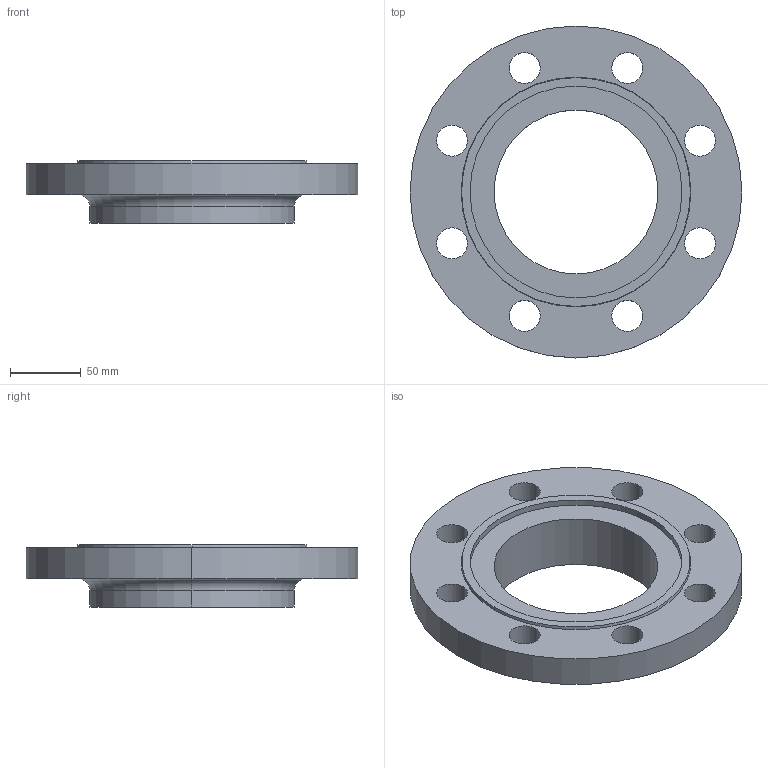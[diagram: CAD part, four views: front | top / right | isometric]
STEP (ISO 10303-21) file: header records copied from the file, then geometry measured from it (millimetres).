
FILE_DESCRIPTION (( 'STEP AP214' ), '1' );
FILE_NAME ('PN40 DN100 Type 12 - Type F Face.STEP', '2019-01-02T00:20:42', ( '' ), ( '' ), 'SwSTEP 2.0', 'SolidWorks 2019', '' );
FILE_SCHEMA (( 'AUTOMOTIVE_DESIGN' ));
Length unit declared in the file: millimetre
Products named in the file (1): PN40 DN100 Type 12 - Type F Face
Bounding box: 235 x 235 x 44 mm (x, y, z)
Volume: 768420.4 mm3; surface area: 112881 mm2
Topology: 1 solids, 1 shells, 33 faces, 82 edges, 54 vertices
Faces by surface type: cylinder 24, plane 5, torus 2, cone 2
Entity records: 1086 total; most frequent: DIRECTION 206, CARTESIAN_POINT 170, ORIENTED_EDGE 164, AXIS2_PLACEMENT_3D 90, EDGE_CURVE 82, CIRCLE 56, VERTEX_POINT 54, EDGE_LOOP 54
